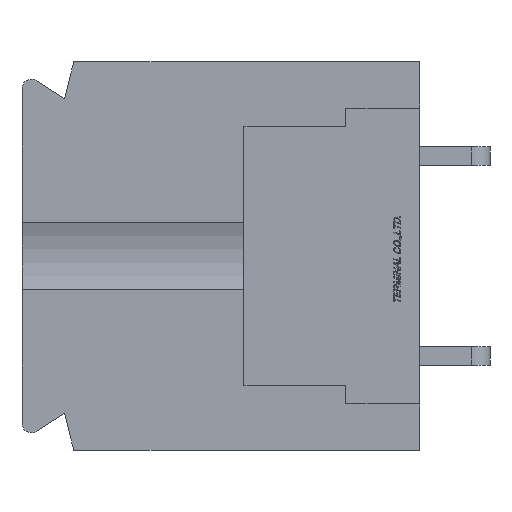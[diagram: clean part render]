
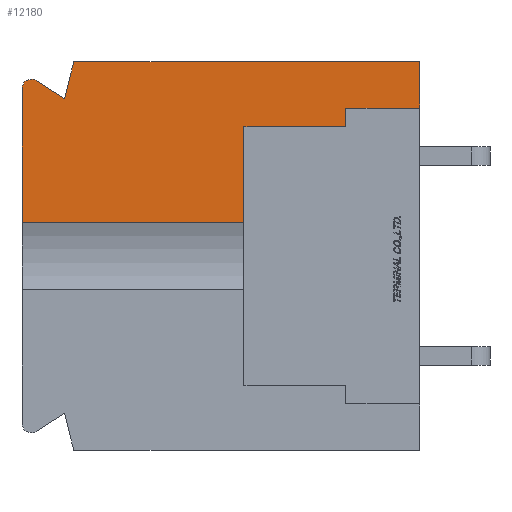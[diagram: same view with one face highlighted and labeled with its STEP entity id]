
A CAD part, left-side view. The second image highlights one B-rep face of the part: STEP entity #12180.
In plain terms, the highlighted planar face has unit normal (-1, 0, 0).
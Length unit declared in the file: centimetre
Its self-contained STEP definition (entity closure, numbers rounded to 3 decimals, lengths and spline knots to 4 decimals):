
#493=CIRCLE('',#20711,0.05);
#753=VECTOR('',#13616,1.);
#754=VECTOR('',#13617,1.);
#755=VECTOR('',#13618,1.);
#756=VECTOR('',#13619,1.);
#757=VECTOR('',#13620,1.);
#758=VECTOR('',#13621,1.);
#759=VECTOR('',#13622,1.);
#760=VECTOR('',#13623,1.);
#761=VECTOR('',#13626,1.);
#762=VECTOR('',#13627,1.);
#2224=LINE('',#16161,#753);
#2225=LINE('',#16164,#754);
#2226=LINE('',#16166,#755);
#2227=LINE('',#16168,#756);
#2228=LINE('',#16170,#757);
#2229=LINE('',#16172,#758);
#2230=LINE('',#16174,#759);
#2231=LINE('',#16176,#760);
#2232=LINE('',#16180,#761);
#2233=LINE('',#16182,#762);
#3708=VERTEX_POINT('',#16162);
#3709=VERTEX_POINT('',#16163);
#3710=VERTEX_POINT('',#16165);
#3711=VERTEX_POINT('',#16167);
#3712=VERTEX_POINT('',#16169);
#3713=VERTEX_POINT('',#16171);
#3714=VERTEX_POINT('',#16173);
#3715=VERTEX_POINT('',#16175);
#3716=VERTEX_POINT('',#16177);
#3717=VERTEX_POINT('',#16179);
#3718=VERTEX_POINT('',#16181);
#5049=EDGE_CURVE('',#3708,#3709,#2224,.T.);
#5050=EDGE_CURVE('',#3710,#3708,#2225,.T.);
#5051=EDGE_CURVE('',#3711,#3710,#2226,.T.);
#5052=EDGE_CURVE('',#3712,#3711,#2227,.T.);
#5053=EDGE_CURVE('',#3713,#3712,#2228,.T.);
#5054=EDGE_CURVE('',#3714,#3713,#2229,.T.);
#5055=EDGE_CURVE('',#3715,#3714,#2230,.T.);
#5056=EDGE_CURVE('',#3716,#3715,#2231,.T.);
#5057=EDGE_CURVE('',#3717,#3716,#493,.T.);
#5058=EDGE_CURVE('',#3718,#3717,#2232,.T.);
#5059=EDGE_CURVE('',#3718,#3709,#2233,.T.);
#7037=ORIENTED_EDGE('',*,*,#5049,.F.);
#7038=ORIENTED_EDGE('',*,*,#5050,.F.);
#7039=ORIENTED_EDGE('',*,*,#5051,.F.);
#7040=ORIENTED_EDGE('',*,*,#5052,.F.);
#7041=ORIENTED_EDGE('',*,*,#5053,.F.);
#7042=ORIENTED_EDGE('',*,*,#5054,.F.);
#7043=ORIENTED_EDGE('',*,*,#5055,.F.);
#7044=ORIENTED_EDGE('',*,*,#5056,.F.);
#7045=ORIENTED_EDGE('',*,*,#5057,.F.);
#7046=ORIENTED_EDGE('',*,*,#5058,.F.);
#7047=ORIENTED_EDGE('',*,*,#5059,.T.);
#10630=EDGE_LOOP('',(#7037,#7038,#7039,#7040,#7041,#7042,#7043,#7044,#7045,
#7046,#7047));
#11410=FACE_BOUND('',#10630,.T.);
#12180=ADVANCED_FACE('',(#11410),#12880,.F.);
#12880=PLANE('',#20710);
#13615=DIRECTION('',(1.,0.,0.));
#13616=DIRECTION('',(0.,0.,-1.));
#13617=DIRECTION('',(0.,1.,0.));
#13618=DIRECTION('',(0.,0.,-1.));
#13619=DIRECTION('',(0.,1.,0.));
#13620=DIRECTION('',(0.,0.,-1.));
#13621=DIRECTION('',(0.,-1.,0.));
#13622=DIRECTION('',(0.,-0.243,0.97));
#13623=DIRECTION('',(0.,-0.844,-0.536));
#13624=DIRECTION('',(1.,0.,0.));
#13625=DIRECTION('',(0.,0.,-0.05));
#13626=DIRECTION('',(0.,0.,1.));
#13627=DIRECTION('',(0.,-1.,0.));
#16160=CARTESIAN_POINT('',(-1.1,1.082,0.));
#16161=CARTESIAN_POINT('',(-1.1,0.95,-0.7));
#16162=CARTESIAN_POINT('',(-1.1,0.95,0.7));
#16163=CARTESIAN_POINT('',(-1.1,0.95,0.1809));
#16164=CARTESIAN_POINT('',(-1.1,0.95,0.7));
#16165=CARTESIAN_POINT('',(-1.1,0.4,0.7));
#16166=CARTESIAN_POINT('',(-1.1,0.4,0.7));
#16167=CARTESIAN_POINT('',(-1.1,0.4,0.8));
#16168=CARTESIAN_POINT('',(-1.1,0.4,0.8));
#16169=CARTESIAN_POINT('',(-1.1,0.,0.8));
#16170=CARTESIAN_POINT('',(-1.1,0.,1.05));
#16171=CARTESIAN_POINT('',(-1.1,0.,1.05));
#16172=CARTESIAN_POINT('',(-1.1,1.87,1.05));
#16173=CARTESIAN_POINT('',(-1.1,1.87,1.05));
#16174=CARTESIAN_POINT('',(-1.1,1.92,0.85));
#16175=CARTESIAN_POINT('',(-1.1,1.92,0.85));
#16176=CARTESIAN_POINT('',(-1.1,2.0742,0.9478));
#16177=CARTESIAN_POINT('',(-1.1,2.0742,0.9478));
#16178=CARTESIAN_POINT('',(-1.1,2.1,0.905));
#16179=CARTESIAN_POINT('',(-1.1,2.15,0.905));
#16180=CARTESIAN_POINT('',(-1.1,2.15,-0.905));
#16181=CARTESIAN_POINT('',(-1.1,2.15,0.1809));
#16182=CARTESIAN_POINT('',(-1.1,1.55,0.1809));
#20710=AXIS2_PLACEMENT_3D('',#16160,#13615,$);
#20711=AXIS2_PLACEMENT_3D('',#16178,#13624,#13625);
